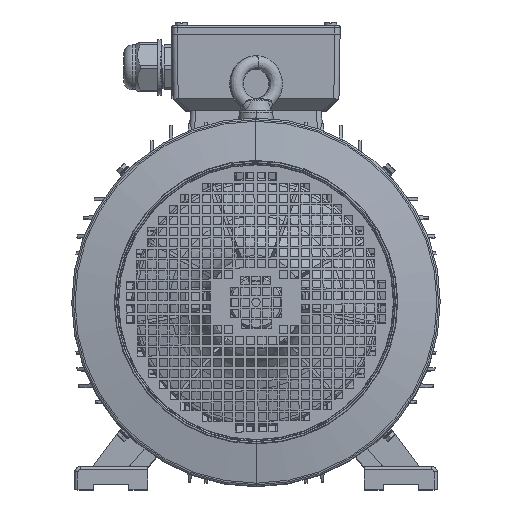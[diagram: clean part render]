
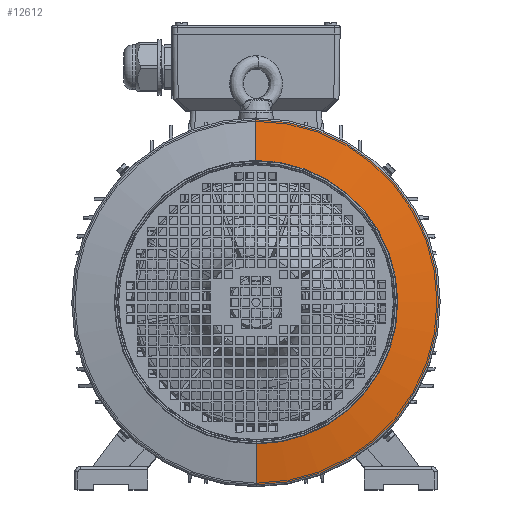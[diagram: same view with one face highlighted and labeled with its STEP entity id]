
A CAD part, top view. The second image highlights one B-rep face of the part: STEP entity #12612.
In plain terms, the highlighted conical face has half-angle 80 degrees and reference radius 136.574 mm.
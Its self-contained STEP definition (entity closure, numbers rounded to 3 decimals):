
#973=CONICAL_SURFACE('',#96874,136.574,80.);
#6491=CIRCLE('',#96872,136.574);
#6492=CIRCLE('',#96873,175.847);
#12612=ADVANCED_FACE('',(#18219),#973,.T.);
#18219=FACE_OUTER_BOUND('',#23716,.T.);
#23716=EDGE_LOOP('',(#43092,#43093,#43094,#43095));
#43092=ORIENTED_EDGE('',*,*,#70049,.F.);
#43093=ORIENTED_EDGE('',*,*,#70050,.T.);
#43094=ORIENTED_EDGE('',*,*,#70051,.T.);
#43095=ORIENTED_EDGE('',*,*,#70052,.F.);
#58983=VERTEX_POINT('',#168686);
#58984=VERTEX_POINT('',#168687);
#58985=VERTEX_POINT('',#168689);
#58986=VERTEX_POINT('',#168691);
#70049=EDGE_CURVE('',#58983,#58984,#6491,.T.);
#70050=EDGE_CURVE('',#58983,#58985,#78237,.T.);
#70051=EDGE_CURVE('',#58985,#58986,#6492,.T.);
#70052=EDGE_CURVE('',#58984,#58986,#78238,.T.);
#78237=LINE('',#168688,#86092);
#78238=LINE('',#168692,#86093);
#86092=VECTOR('',#112712,1.);
#86093=VECTOR('',#112715,1.);
#96872=AXIS2_PLACEMENT_3D('',#168685,#112710,#112711);
#96873=AXIS2_PLACEMENT_3D('',#168690,#112713,#112714);
#96874=AXIS2_PLACEMENT_3D('',#168693,#112716,#112717);
#112710=DIRECTION('',(0.,0.,1.));
#112711=DIRECTION('',(0.003,-1.,0.));
#112712=DIRECTION('',(0.003,-0.985,-0.174));
#112713=DIRECTION('',(0.,0.,1.));
#112714=DIRECTION('',(0.003,-1.,0.));
#112715=DIRECTION('',(-0.003,0.985,-0.174));
#112716=DIRECTION('',(0.,0.,-1.));
#112717=DIRECTION('',(0.003,-1.,0.));
#168685=CARTESIAN_POINT('',(59.478,-8.346,372.277));
#168686=CARTESIAN_POINT('',(59.922,-144.919,372.277));
#168687=CARTESIAN_POINT('',(59.034,128.227,372.277));
#168688=CARTESIAN_POINT('',(59.922,-144.919,372.277));
#168689=CARTESIAN_POINT('',(60.05,-184.193,365.352));
#168690=CARTESIAN_POINT('',(59.478,-8.346,365.352));
#168691=CARTESIAN_POINT('',(58.907,167.5,365.352));
#168692=CARTESIAN_POINT('',(59.034,128.227,372.277));
#168693=CARTESIAN_POINT('',(59.478,-8.346,372.277));
